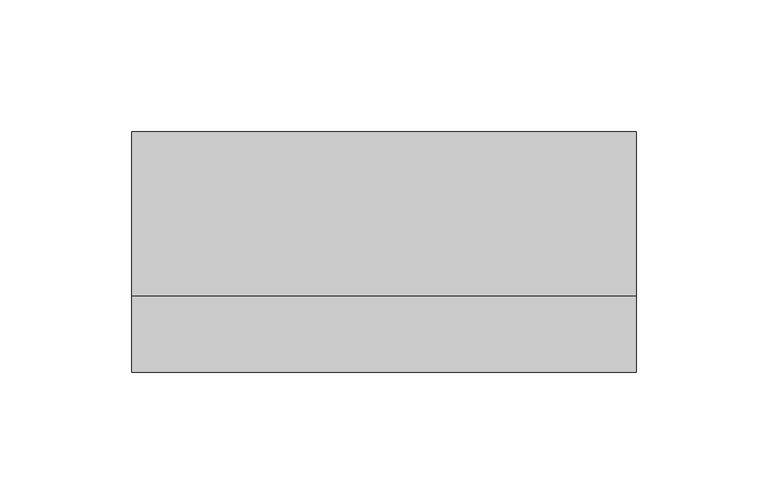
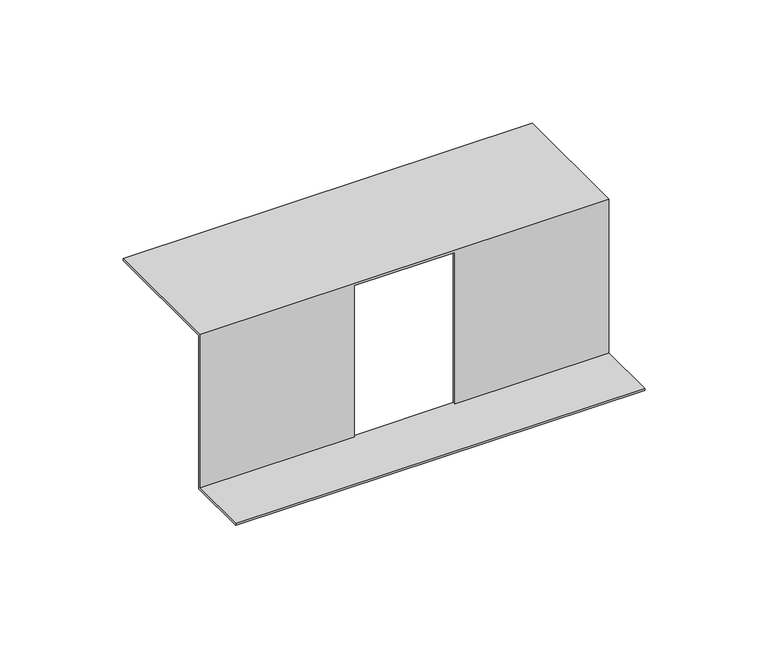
"""IFC4 building model written with IfcOpenShell, lengths in millimetres: proxy geometry, Суппорт для установки автоматических выключателей в лючок : Суппорт для установки автоматических выключателей в лючок."""

from ifc_helpers import new_model, si_unit, origin, place, context, project, spatial, faceted_brep, source, transform, mapped, element, save


def electrical_fixtures_d9d6a25e(model_context):
    return source(origin(), model_context, "Body", "Brep", [
        faceted_brep([(95.75, 0.0, 76.0), (95.75, 0.0, 77.0), (95.75, -62.2, 77.0), (95.75, -62.2, 1.0), (95.75, -91.2, 1.0), (95.75, -91.2, 0.0), (95.75, -61.2, 0.0), (95.75, -61.2, 76.0), (-95.75, 0.0, 76.0), (-95.75, -61.2, 76.0), (-95.75, -61.2, 0.0), (-95.75, -91.2, 0.0), (-95.75, -91.2, 1.0), (-95.75, -62.2, 1.0), (-95.75, -62.2, 77.0), (-95.75, 0.0, 77.0), (-23.5, -62.2, 1.0), (-23.5, -62.2, 76.0), (23.5, -62.2, 76.0), (23.5, -62.2, 1.0), (23.5, -61.2, 1.0), (-23.5, -61.2, 1.0), (-23.5, -61.2, 76.0), (23.5, -61.2, 76.0)], [[[0, 1, 2, 3, 4, 5, 6, 7]], [[8, 9, 10, 11, 12, 13, 14, 15]], [[1, 0, 8, 15]], [[2, 1, 15, 14]], [[3, 2, 14, 13, 16, 17, 18, 19]], [[4, 3, 19, 20, 21, 16, 13, 12]], [[5, 4, 12, 11]], [[6, 5, 11, 10]], [[7, 6, 10, 9, 22, 21, 20, 23]], [[0, 7, 23, 18, 17, 22, 9, 8]], [[22, 17, 16, 21]], [[18, 23, 20, 19]]]),
    ])


if __name__ == "__main__":
    model = new_model("IFC4")
    model_context = context("Model", 3, world=origin())
    ifc_project = project(units=[si_unit("LENGTHUNIT", "METRE", prefix="MILLI")], contexts=[model_context])
    site = spatial("IfcSite", under=ifc_project)
    building = spatial("IfcBuilding", under=site)
    placement = place(None, origin())
    electrical_fixtures_shape = electrical_fixtures_d9d6a25e(model_context)
    element("IfcBuildingElementProxy", 1, Name="Суппорт для установки автоматических выключателей в лючок : Суппорт для установки автоматических выключателей в лючок", ObjectType="Суппорт для установки автоматических выключателей в лючок : Суппорт для установки автоматических выключателей в лючок", at=placement, inside=building, context=model_context, shape_type="MappedRepresentation", body=[
        mapped(electrical_fixtures_shape, transform((0.0, 0.0, 0.0), x_axis=(1.0, 0.0, 0.0), y_axis=(0.0, 1.0, 0.0), z_axis=(0.0, 0.0, 1.0))),
    ])
    save(model, "model.ifc")
